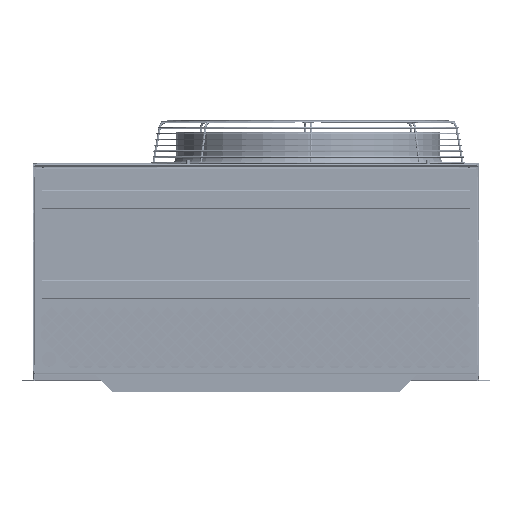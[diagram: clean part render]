
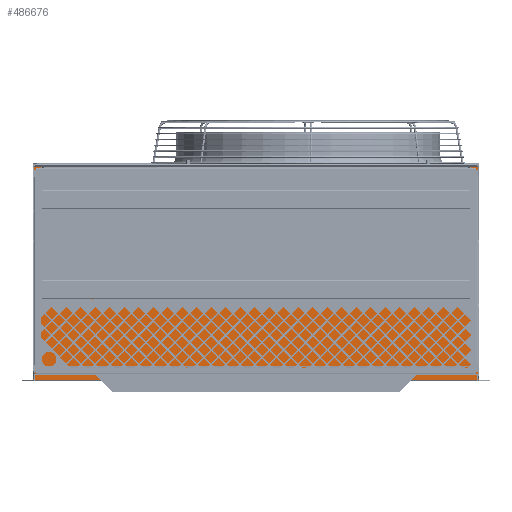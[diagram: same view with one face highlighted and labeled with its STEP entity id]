
A CAD part, front view. The second image highlights one B-rep face of the part: STEP entity #486676.
In plain terms, the highlighted planar face has unit normal (0, -1, -0.026) as drawn and (0, -1, 0) by its records, which use the part's own axes.
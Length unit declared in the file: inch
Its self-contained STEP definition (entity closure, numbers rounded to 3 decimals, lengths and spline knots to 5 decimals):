
#15754 = CARTESIAN_POINT ( 'NONE',  ( 38.108, 0., 0. ) ) ;
#20864 = CARTESIAN_POINT ( 'NONE',  ( 38.079, 0., -18.18119 ) ) ;
#31551 = CARTESIAN_POINT ( 'NONE',  ( 38.108, 0., -18.27969 ) ) ;
#42697 = VECTOR ( 'NONE', #394923, 39.37008 ) ;
#58639 = CARTESIAN_POINT ( 'NONE',  ( 0., 0., 0. ) ) ;
#58822 = VECTOR ( 'NONE', #513787, 39.37008 ) ;
#89925 = CARTESIAN_POINT ( 'NONE',  ( 0., 0., -18.27969 ) ) ;
#103408 = ORIENTED_EDGE ( 'NONE', *, *, #282730, .F. ) ;
#119264 = VERTEX_POINT ( 'NONE', #276488 ) ;
#132595 = VERTEX_POINT ( 'NONE', #500073 ) ;
#136967 = ORIENTED_EDGE ( 'NONE', *, *, #325621, .F. ) ;
#146899 = DIRECTION ( 'NONE',  ( 0., 0., -1. ) ) ;
#160378 = DIRECTION ( 'NONE',  ( 0., 0., -1. ) ) ;
#166914 = ORIENTED_EDGE ( 'NONE', *, *, #324998, .F. ) ;
#180983 = VERTEX_POINT ( 'NONE', #597344 ) ;
#189820 = CARTESIAN_POINT ( 'NONE',  ( 0.029, 0., -0.0285 ) ) ;
#193234 = CARTESIAN_POINT ( 'NONE',  ( 38.079, 0., 0. ) ) ;
#197524 = CARTESIAN_POINT ( 'NONE',  ( 0., 0., -18.30819 ) ) ;
#199839 = VERTEX_POINT ( 'NONE', #20864 ) ;
#199981 = VECTOR ( 'NONE', #566660, 39.37008 ) ;
#201815 = EDGE_CURVE ( 'NONE', #180983, #273246, #247641, .T. ) ;
#204037 = DIRECTION ( 'NONE',  ( 0., 0., -1. ) ) ;
#211830 = VECTOR ( 'NONE', #204037, 39.37008 ) ;
#232402 = ORIENTED_EDGE ( 'NONE', *, *, #406709, .T. ) ;
#247641 = LINE ( 'NONE', #516181, #336376 ) ;
#250344 = LINE ( 'NONE', #15754, #211830 ) ;
#262970 = LINE ( 'NONE', #358538, #556094 ) ;
#273246 = VERTEX_POINT ( 'NONE', #501630 ) ;
#273258 = CARTESIAN_POINT ( 'NONE',  ( 38.108, 0., -18.18119 ) ) ;
#273299 = LINE ( 'NONE', #189820, #58822 ) ;
#276488 = CARTESIAN_POINT ( 'NONE',  ( 0., 0., -18.27969 ) ) ;
#282730 = EDGE_CURVE ( 'NONE', #119264, #515177, #481401, .T. ) ;
#291501 = ORIENTED_EDGE ( 'NONE', *, *, #201815, .F. ) ;
#302304 = DIRECTION ( 'NONE',  ( 0., -1., 0. ) ) ;
#309255 = DIRECTION ( 'NONE',  ( 1., 0., 0. ) ) ;
#315707 = VERTEX_POINT ( 'NONE', #31551 ) ;
#318001 = VECTOR ( 'NONE', #146899, 39.37008 ) ;
#324998 = EDGE_CURVE ( 'NONE', #515177, #180983, #378607, .T. ) ;
#325621 = EDGE_CURVE ( 'NONE', #132595, #199839, #433788, .T. ) ;
#331407 = EDGE_CURVE ( 'NONE', #585911, #315707, #250344, .T. ) ;
#336376 = VECTOR ( 'NONE', #435808, 39.37008 ) ;
#348560 = FACE_OUTER_BOUND ( 'NONE', #366776, .T. ) ;
#358538 = CARTESIAN_POINT ( 'NONE',  ( 38.079, 0., -18.18119 ) ) ;
#366776 = EDGE_LOOP ( 'NONE', ( #136967, #466107, #291501, #166914, #103408, #232402, #566853, #603355 ) ) ;
#378607 = LINE ( 'NONE', #390764, #199981 ) ;
#390764 = CARTESIAN_POINT ( 'NONE',  ( 0., 0., -18.18119 ) ) ;
#394923 = DIRECTION ( 'NONE',  ( 0., 0., 1. ) ) ;
#397919 = PLANE ( 'NONE',  #527437 ) ;
#406709 = EDGE_CURVE ( 'NONE', #119264, #315707, #512612, .T. ) ;
#433788 = LINE ( 'NONE', #193234, #318001 ) ;
#435808 = DIRECTION ( 'NONE',  ( 0., 0., 1. ) ) ;
#442620 = VECTOR ( 'NONE', #509574, 39.37008 ) ;
#466107 = ORIENTED_EDGE ( 'NONE', *, *, #513232, .F. ) ;
#475102 = CARTESIAN_POINT ( 'NONE',  ( 0., 0., -18.18119 ) ) ;
#481401 = LINE ( 'NONE', #58639, #42697 ) ;
#486676 = ADVANCED_FACE ( 'NONE', ( #348560 ), #397919, .T. ) ;
#500073 = CARTESIAN_POINT ( 'NONE',  ( 38.079, 0., -0.0285 ) ) ;
#501630 = CARTESIAN_POINT ( 'NONE',  ( 0.029, 0., -0.0285 ) ) ;
#509574 = DIRECTION ( 'NONE',  ( 1., 0., 0. ) ) ;
#512612 = LINE ( 'NONE', #89925, #442620 ) ;
#513232 = EDGE_CURVE ( 'NONE', #273246, #132595, #273299, .T. ) ;
#513787 = DIRECTION ( 'NONE',  ( 1., 0., 0. ) ) ;
#515177 = VERTEX_POINT ( 'NONE', #475102 ) ;
#516181 = CARTESIAN_POINT ( 'NONE',  ( 0.029, 0., -18.18119 ) ) ;
#527437 = AXIS2_PLACEMENT_3D ( 'NONE', #197524, #302304, #160378 ) ;
#529953 = EDGE_CURVE ( 'NONE', #199839, #585911, #262970, .T. ) ;
#556094 = VECTOR ( 'NONE', #309255, 39.37008 ) ;
#566660 = DIRECTION ( 'NONE',  ( 1., 0., 0. ) ) ;
#566853 = ORIENTED_EDGE ( 'NONE', *, *, #331407, .F. ) ;
#585911 = VERTEX_POINT ( 'NONE', #273258 ) ;
#597344 = CARTESIAN_POINT ( 'NONE',  ( 0.029, 0., -18.18119 ) ) ;
#603355 = ORIENTED_EDGE ( 'NONE', *, *, #529953, .F. ) ;
